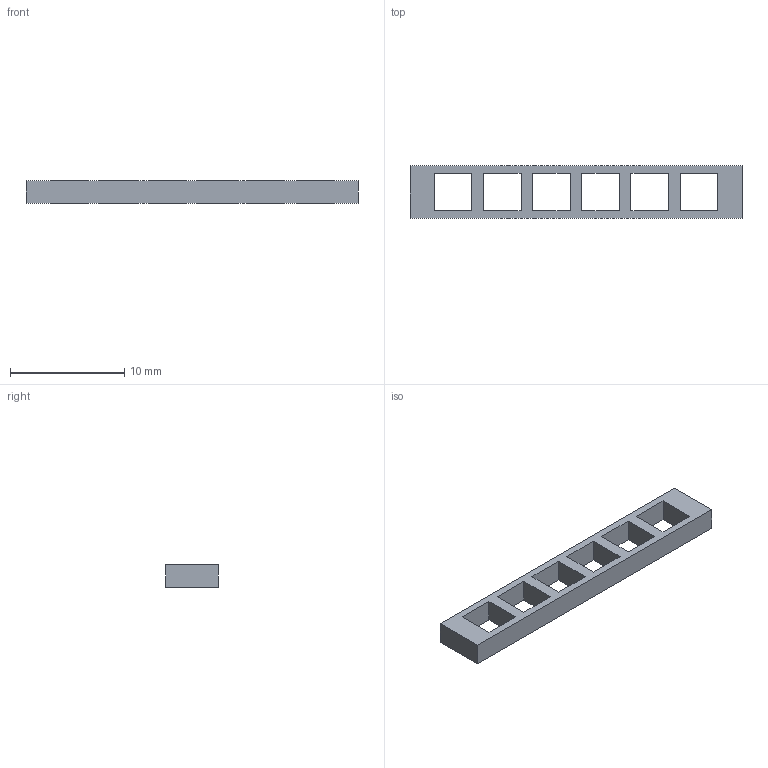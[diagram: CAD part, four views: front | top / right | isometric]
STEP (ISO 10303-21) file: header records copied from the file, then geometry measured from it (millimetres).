
FILE_DESCRIPTION(('FreeCAD Model'),'2;1');
FILE_NAME('Open CASCADE Shape Model','2026-11-20T08:25:39',('FreeCAD'),( 'FreeCAD'),'Open CASCADE STEP processor 7.8','FreeCAD','Unknown');
FILE_SCHEMA(('AUTOMOTIVE_DESIGN { 1 0 10303 214 1 1 1 1 }'));
Length unit declared in the file: millimetre
Products named in the file (1): Open CASCADE STEP translator 7.8 85
Bounding box: 29 x 4.6 x 2 mm (x, y, z)
Volume: 136.1 mm3; surface area: 428.9 mm2
Topology: 1 solids, 1 shells, 30 faces, 84 edges, 56 vertices
Faces by surface type: plane 30
Entity records: 982 total; most frequent: CARTESIAN_POINT 171, ORIENTED_EDGE 168, DIRECTION 146, EDGE_CURVE 84, LINE 84, VECTOR 84, VERTEX_POINT 56, FACE_BOUND 42
